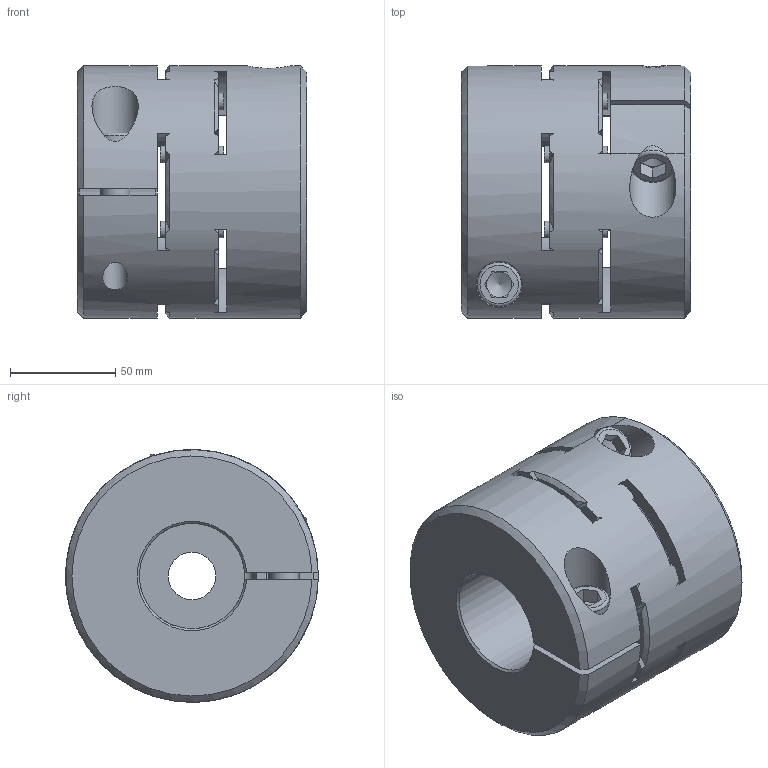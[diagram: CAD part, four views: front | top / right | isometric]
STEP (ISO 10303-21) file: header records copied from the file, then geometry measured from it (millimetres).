
FILE_DESCRIPTION(/* description */ ('Unknown','CAx-IF Rec.Pracs.---Representation and Presentation of Product Manufacturing Information (PMI)---4.0---2014-10-13','CAx-IF Rec.Pracs.---3D Tessellated Geometry---0.4---2014-09-14','2;1'),/* implementation_level */ '2;1');
FILE_NAME(/* name */ 'EKM - VA 480',/* time_stamp */ '2023-05-26T10:31:55+02:00',/* author */ ('Unknown'),/* organization */ ('Unknown'),/* preprocessor_version */ 'ST-DEVELOPER v18.102',/* originating_system */ 'Solid Edge',/* authorisation */ 'Unknown');
FILE_SCHEMA (('AP242_MANAGED_MODEL_BASED_3D_ENGINEERING_MIM_LF { 1 0 10303 442 1 1 4 }'));
Length unit declared in the file: millimetre
Products named in the file (1): EKM - VA 480
Bounding box: 109 x 120 x 120 mm (x, y, z)
Volume: 928838.1 mm3; surface area: 131858 mm2
Topology: 1 solids, 1 shells, 213 faces, 617 edges, 400 vertices
Faces by surface type: cylinder 75, cone 74, plane 60, torus 4
Full cylindrical faces by diameter (mm): 8 x8, 11.835 x4, 14 x2, 14.5 x2, 21 x2, 22 x2, 22.5 x1, 58 x2, 120 x1
Entity records: 8909 total; most frequent: CARTESIAN_POINT 2075, ORIENTED_EDGE 1136, DIRECTION 1084, EDGE_CURVE 568, AXIS2_PLACEMENT_3D 478, VERTEX_POINT 388, FACE_BOUND 276, EDGE_LOOP 274
